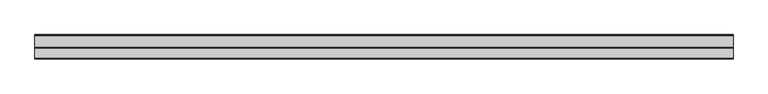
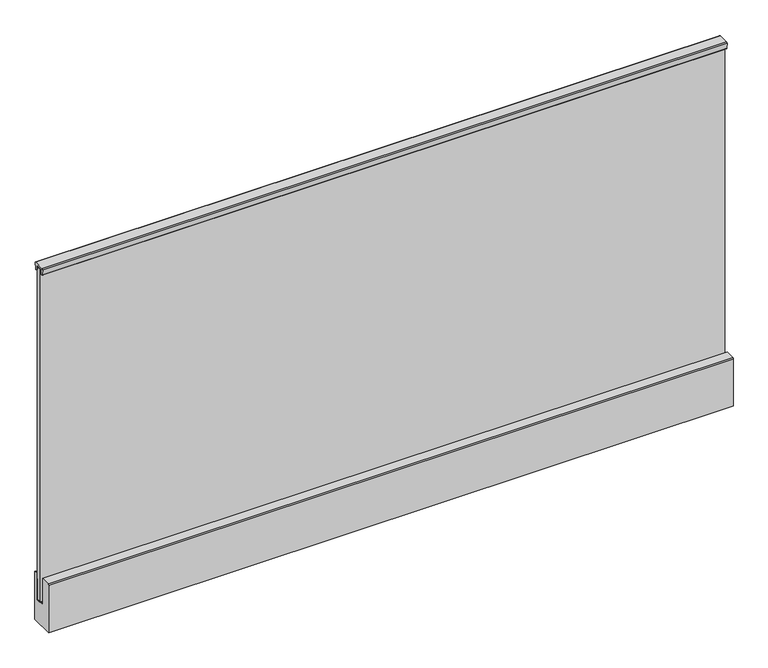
"""IFC4 building model written with IfcOpenShell, lengths in millimetres: railing geometry, Glass Railing (8+8) - Faraone - Ninfa 176 - Wall mounted - Trapez Handrail 42."""

import ifcopenshell
import ifcopenshell.guid

model = None  # the IFC model being written
_history = None  # IfcOwnerHistory: only IFC2X3 demands one
_inside = {}  # id of a spatial element -> (the spatial element, [elements in it])
_under = {}  # id of a project, library or spatial element -> (it, [spatial elements below it])
_declared = {}  # id of a project -> (the project, [libraries it declares])
_typed = {}  # id of a type object -> (the type object, [elements of that type])
_made_of = {}  # id of a material, layer set ... -> (it, [elements and type objects made of it])


def new_model(schema):
    """Start an empty IFC model of exactly this schema.

    Asked for "IFC4X3", IfcOpenShell would pick the latest addendum, in which some entities
    have other attributes; the version numbers below select the first issue.
    IFC2X3 requires an IfcOwnerHistory on every rooted entity: one is made here for all.
    """
    global model, _history
    if schema == "IFC4X3":
        model = ifcopenshell.file(schema_version=(4, 3, 0, 0))
    else:
        model = ifcopenshell.file(schema=schema)
    _inside.clear()
    _under.clear()
    _declared.clear()
    _typed.clear()
    _made_of.clear()
    _history = None
    if model.schema == "IFC2X3":
        org = make("IfcOrganization", Name="unknown")
        user = make(
            "IfcPersonAndOrganization",
            ThePerson=make("IfcPerson", FamilyName="unknown"),
            TheOrganization=org,
        )
        app = make(
            "IfcApplication",
            ApplicationDeveloper=org,
            Version="unknown",
            ApplicationFullName="unknown",
            ApplicationIdentifier="unknown",
        )
        _history = make(
            "IfcOwnerHistory",
            OwningUser=user,
            OwningApplication=app,
            ChangeAction="ADDED",
            CreationDate=0,
        )
    return model


def make(cls, **values):
    """One entity of the class cls with the attributes given. An attribute that is None is left unset."""
    return model.create_entity(
        cls, **{name: value for name, value in values.items() if value is not None}
    )


def rooted(cls, **values):
    """An entity with a GlobalId (a new one), such as an element, a storey or a relation."""
    return make(cls, GlobalId=ifcopenshell.guid.new(), OwnerHistory=_history, **values)


def si_unit(unit_type, name, prefix=None):
    """IfcSIUnit, for example si_unit("LENGTHUNIT", "METRE", prefix="MILLI")."""
    return make("IfcSIUnit", UnitType=unit_type, Prefix=prefix, Name=name)


def assignment(units):
    """IfcUnitAssignment: the units of a project."""
    return None if units is None else make("IfcUnitAssignment", Units=units)


def point(xyz):
    """IfcCartesianPoint."""
    return None if xyz is None else make("IfcCartesianPoint", Coordinates=xyz)


def direction(xyz):
    """IfcDirection."""
    return None if xyz is None else make("IfcDirection", DirectionRatios=xyz)


def frame(location, z_axis=None, x_axis=None):
    """IfcAxis2Placement3D, a coordinate frame: its origin and axes. An axis left out is left unset."""
    return make(
        "IfcAxis2Placement3D",
        Location=point(location),
        Axis=direction(z_axis),
        RefDirection=direction(x_axis),
    )


def frame_2d(location, x_axis=None):
    """IfcAxis2Placement2D, a coordinate frame in the plane: its origin and x axis."""
    return make(
        "IfcAxis2Placement2D", Location=point(location), RefDirection=direction(x_axis)
    )


def origin():
    """The frame at (0, 0, 0) with its axes left unset."""
    return frame((0.0, 0.0, 0.0))


def place(relative_to, where):
    """IfcLocalPlacement: puts the frame where relative to a parent placement (None: the world)."""
    return make(
        "IfcLocalPlacement", PlacementRelTo=relative_to, RelativePlacement=where
    )


def context(
    kind, dimensions, precision=None, world=None, true_north=None, identifier=None
):
    """IfcGeometricRepresentationContext, for example the 3D "Model" context."""
    return make(
        "IfcGeometricRepresentationContext",
        ContextIdentifier=identifier,
        ContextType=kind,
        CoordinateSpaceDimension=dimensions,
        Precision=precision,
        WorldCoordinateSystem=world,
        TrueNorth=true_north,
    )


def project(units=None, contexts=None):
    """IfcProject with its units and contexts."""
    return rooted(
        "IfcProject",
        Name="project",
        RepresentationContexts=contexts,
        UnitsInContext=assignment(units),
    )


def spatial(cls, under=None, at=None, **own):
    """A site, building, storey or space (cls), placed at a placement, below another one or the project."""
    s = rooted(cls, ObjectPlacement=at, **own)
    if under is not None:
        _under.setdefault(under.id(), (under, []))[1].append(s)
    return s


def polyline(points):
    """IfcPolyline through the points."""
    return make("IfcPolyline", Points=[point(p) for p in points])


def circle_curve(where, radius):
    """IfcCircle in the frame where."""
    return make("IfcCircle", Position=where, Radius=radius)


def trimmed(basis, trim1, trim2, sense, master):
    """IfcTrimmedCurve: the piece of a basis curve between two trims."""
    return make(
        "IfcTrimmedCurve",
        BasisCurve=basis,
        Trim1=trim1,
        Trim2=trim2,
        SenseAgreement=sense,
        MasterRepresentation=master,
    )


def segment(curve, same_sense, transition):
    """IfcCompositeCurveSegment."""
    return make(
        "IfcCompositeCurveSegment",
        Transition=transition,
        SameSense=same_sense,
        ParentCurve=curve,
    )


def composite_curve(segments, self_intersect=None):
    """IfcCompositeCurve: segments joined end to end."""
    return make("IfcCompositeCurve", Segments=segments, SelfIntersect=self_intersect)


def outline(outer, holes=None, kind="AREA"):
    """IfcArbitraryClosedProfileDef: a profile drawn as a closed curve; with holes, ...WithVoids."""
    if holes is None:
        return make("IfcArbitraryClosedProfileDef", ProfileType=kind, OuterCurve=outer)
    return make(
        "IfcArbitraryProfileDefWithVoids",
        ProfileType=kind,
        OuterCurve=outer,
        InnerCurves=holes,
    )


def extrude(swept, where, along, depth):
    """IfcExtrudedAreaSolid: the profile swept, set in the frame where, extruded along a direction by depth."""
    return make(
        "IfcExtrudedAreaSolid",
        SweptArea=swept,
        Position=where,
        ExtrudedDirection=direction(along),
        Depth=depth,
    )


def shape(context_of_items, identifier, shape_type, items):
    """IfcShapeRepresentation: the items that make up one representation, for example the "Body"."""
    return make(
        "IfcShapeRepresentation",
        ContextOfItems=context_of_items,
        RepresentationIdentifier=identifier,
        RepresentationType=shape_type,
        Items=items,
    )


def source(mapping_origin, context_of_items, identifier, shape_type, items):
    """IfcRepresentationMap: a shape defined once, which mapped items show again and again."""
    return make(
        "IfcRepresentationMap",
        MappingOrigin=mapping_origin,
        MappedRepresentation=shape(context_of_items, identifier, shape_type, items),
    )


def transform(
    local_origin,
    x_axis=None,
    y_axis=None,
    z_axis=None,
    scale=None,
    scale2=None,
    scale3=None,
    uniform=True,
):
    """IfcCartesianTransformationOperator3D, or its non-uniform kind. x_axis, y_axis, z_axis: its Axis1, 2, 3."""
    if uniform:
        return make(
            "IfcCartesianTransformationOperator3D",
            Axis1=direction(x_axis),
            Axis2=direction(y_axis),
            LocalOrigin=point(local_origin),
            Scale=scale,
            Axis3=direction(z_axis),
        )
    return make(
        "IfcCartesianTransformationOperator3DnonUniform",
        Axis1=direction(x_axis),
        Axis2=direction(y_axis),
        LocalOrigin=point(local_origin),
        Scale=scale,
        Axis3=direction(z_axis),
        Scale2=scale2,
        Scale3=scale3,
    )


def mapped(mapping_source, mapping_target):
    """IfcMappedItem: shows the shape of a source again, moved by a transform."""
    return make(
        "IfcMappedItem", MappingSource=mapping_source, MappingTarget=mapping_target
    )


def made_of(thing, what):
    """Note that an element or type object is made of a material, layer set ...; save() writes the relation."""
    if what is not None:
        _made_of.setdefault(what.id(), (what, []))[1].append(thing)
    return thing


def element(
    cls,
    number,
    at=None,
    inside=None,
    cuts=None,
    type_object=None,
    material=None,
    context=None,
    identifier="Body",
    shape_type=None,
    held_by="IfcProductDefinitionShape",
    body=None,
    shapes=None,
    **own,
):
    """One element of the class cls, such as IfcWall. Its Tag is "e" and its number.

    at: its placement. inside: the storey or other place that contains it. cuts: it is an
    opening in that element (IfcRelVoidsElement). A single representation is given by context,
    identifier, shape_type and body (its items); several are given by shapes. held_by: the class
    of the entity that holds the representations. save() writes the other relations.
    """
    e = rooted(cls, Tag="e%d" % number, ObjectPlacement=at, **own)
    if body is not None:
        shapes = [shape(context, identifier, shape_type, body)]
    if shapes is not None:
        e.Representation = make(held_by, Representations=shapes)
    if inside is not None:
        _inside.setdefault(inside.id(), (inside, []))[1].append(e)
    if cuts is not None:
        rooted(
            "IfcRelVoidsElement", RelatingBuildingElement=cuts, RelatedOpeningElement=e
        )
    if type_object is not None:
        _typed.setdefault(type_object.id(), (type_object, []))[1].append(e)
    return made_of(e, material)


def aggregate(whole, parts):
    """IfcRelAggregates: a whole, such as a stair, and the parts it consists of."""
    return rooted("IfcRelAggregates", RelatingObject=whole, RelatedObjects=parts)


def save(model, path):
    """Write the relations noted so far, then the file.

    IfcRelAggregates (storeys below a building ...), IfcRelContainedInSpatialStructure (elements
    in a storey), IfcRelDefinesByType, IfcRelAssociatesMaterial and IfcRelDeclares: one each for
    every whole, place, type object, material and project.
    """
    for whole, parts in _under.values():
        aggregate(whole, parts)
    for where, things in _inside.values():
        rooted(
            "IfcRelContainedInSpatialStructure",
            RelatedElements=things,
            RelatingStructure=where,
        )
    for kind, things in _typed.values():
        rooted("IfcRelDefinesByType", RelatedObjects=things, RelatingType=kind)
    for what, things in _made_of.values():
        rooted("IfcRelAssociatesMaterial", RelatedObjects=things, RelatingMaterial=what)
    for by, libraries in _declared.values():
        rooted("IfcRelDeclares", RelatingContext=by, RelatedDefinitions=libraries)
    model.write(path)


def railing_6d46e8ff(model_context):
    return source(origin(), model_context, "Body", "SweptSolid", [
        extrude(outline(composite_curve([segment(trimmed(circle_curve(frame_2d((-3381.6030807, 1106.5130839)), 3.0469161), [point((-3381.6030807, 1109.56))], [point((-3378.5860514, 1106.0873703))], False, "CARTESIAN"), True, "CONTINUOUS"), segment(polyline([(-3378.5860514, 1106.0873703), (-3381.3779492, 1086.3012064)]), True, "CONTINUOUS"), segment(trimmed(circle_curve(frame_2d((-3383.3820945, 1086.5839984)), 2.0239984), [point((-3381.3779492, 1086.3012064))], [point((-3383.3820945, 1084.56))], False, "CARTESIAN"), True, "CONTINUOUS"), segment(polyline([(-3383.3820945, 1084.56), (-3387.0313309, 1084.56), (-3387.0313309, 1102.56), (-3412.5313309, 1102.56), (-3412.5313309, 1084.56), (-3416.1805674, 1084.56)]), True, "CONTINUOUS"), segment(trimmed(circle_curve(frame_2d((-3416.1805674, 1086.5839984)), 2.0239984), [point((-3416.1805674, 1084.56))], [point((-3418.1847127, 1086.3012064))], False, "CARTESIAN"), True, "CONTINUOUS"), segment(polyline([(-3418.1847127, 1086.3012064), (-3420.9766105, 1106.0873703)]), True, "CONTINUOUS"), segment(trimmed(circle_curve(frame_2d((-3417.9595811, 1106.5130839)), 3.0469161), [point((-3420.9766105, 1106.0873703))], [point((-3417.9595811, 1109.56))], False, "CARTESIAN"), True, "CONTINUOUS"), segment(polyline([(-3417.9595811, 1109.56), (-3381.6030807, 1109.56)]), True, "CONTINUOUS")], self_intersect=False)), frame((4362.6376845, 0.0, 0.0), z_axis=(1.0, 0.0, 0.0), x_axis=(0.0, 1.0, 0.0)), (0.0, 0.0, 1.0), 2320.0),
        extrude(outline(polyline([(-3391.3513309, -92.36), (-3408.1513309, -92.36), (-3408.1513309, 1100.56), (-3400.2513309, 1100.56), (-3400.2513309, -91.56), (-3399.2513309, -91.56), (-3399.2513309, 1100.56), (-3391.3513309, 1100.56), (-3391.3513309, -92.36)])), frame((4362.6376845, 0.0, 0.0), z_axis=(1.0, 0.0, 0.0), x_axis=(0.0, 1.0, 0.0)), (0.0, 0.0, 1.0), 2320.0),
        extrude(outline(composite_curve([segment(trimmed(circle_curve(frame_2d((-3379.4787613, -3.1212327)), 3.1206002), [point((-3379.4787613, -0.0006325))], [point((-3376.3581612, -3.1212327))], False, "CARTESIAN"), True, "CONTINUOUS"), segment(polyline([(-3376.3581612, -3.1212327), (-3376.3581612, -173.21), (-3456.7016946, -173.21), (-3456.7016946, -3.0621312)]), True, "CONTINUOUS"), segment(trimmed(circle_curve(frame_2d((-3453.6401959, -3.0621312)), 3.0614987), [point((-3456.7016946, -3.0621312))], [point((-3453.6401959, -0.0006325))], False, "CARTESIAN"), True, "CONTINUOUS"), segment(polyline([(-3453.6401959, -0.0006325), (-3421.15946, -0.0006325), (-3421.15946, -95.3393625), (-3389.3832019, -95.3393625), (-3389.3832019, -0.0006325), (-3379.4787613, -0.0006325)]), True, "CONTINUOUS")], self_intersect=False)), frame((4362.6376845, 0.0, 0.0), z_axis=(1.0, 0.0, 0.0), x_axis=(0.0, 1.0, 0.0)), (0.0, 0.0, 1.0), 2320.0),
        extrude(outline(polyline([(-3389.3794161, -95.34), (-3412.8632457, -95.34), (-3412.8632457, -92.3609041), (-3391.3533642, -92.3609041), (-3391.3533642, -20.1108016), (-3389.3794161, -20.1108016), (-3389.3794161, -95.34)])), frame((4362.6376845, 0.0, 0.0), z_axis=(1.0, 0.0, 0.0), x_axis=(0.0, 1.0, 0.0)), (0.0, 0.0, 1.0), 2320.0),
        extrude(outline(polyline([(4362.6376845, -3391.4313309), (4362.6376845, -3387.0313309), (6682.6376845, -3387.0313309), (6682.6376845, -3391.4313309), (4362.6376845, -3391.4313309)])), frame((0.0, 0.0, 1089.82), z_axis=(0.0, 0.0, 1.0), x_axis=(1.0, 0.0, 0.0)), (0.0, 0.0, 1.0), 10.74),
        extrude(outline(polyline([(4362.6376845, -3412.5513309), (4362.6376845, -3408.1513309), (6682.6376845, -3408.1513309), (6682.6376845, -3412.5513309), (4362.6376845, -3412.5513309)])), frame((0.0, 0.0, 1089.82), z_axis=(0.0, 0.0, 1.0), x_axis=(1.0, 0.0, 0.0)), (0.0, 0.0, 1.0), 10.74),
        extrude(outline(polyline([(4362.6376845, -3410.4513309), (4362.6376845, -3388.9513309), (6682.6376845, -3388.9513309), (6682.6376845, -3410.4513309), (4362.6376845, -3410.4513309)])), frame((0.0, 0.0, 1100.56), z_axis=(0.0, 0.0, 1.0), x_axis=(1.0, 0.0, 0.0)), (0.0, 0.0, 1.0), 2.0),
    ])


if __name__ == "__main__":
    model = new_model("IFC4")
    model_context = context("Model", 3, world=origin())
    ifc_project = project(units=[si_unit("LENGTHUNIT", "METRE", prefix="MILLI")], contexts=[model_context])
    site = spatial("IfcSite", under=ifc_project)
    building = spatial("IfcBuilding", under=site)
    placement = place(None, origin())
    railing_shape = railing_6d46e8ff(model_context)
    element("IfcRailing", 1, ObjectType="Glass Railing (8+8) - Faraone - Ninfa 176 - Wall mounted - Trapez Handrail 42", at=placement, inside=building, context=model_context, shape_type="MappedRepresentation", body=[
        mapped(railing_shape, transform((0.0, 0.0, 0.0), x_axis=(1.0, 0.0, 0.0), y_axis=(0.0, 1.0, 0.0), z_axis=(0.0, 0.0, 1.0))),
    ])
    save(model, "model.ifc")
